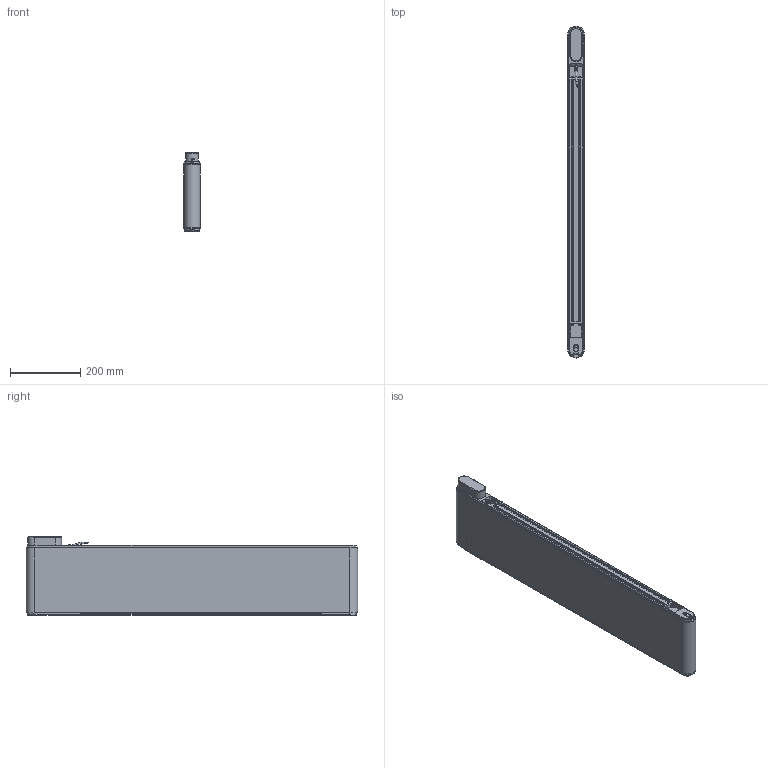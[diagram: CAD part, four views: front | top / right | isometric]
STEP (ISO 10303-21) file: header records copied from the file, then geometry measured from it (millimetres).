
FILE_DESCRIPTION(/* description */ (''),/* implementation_level */ '2;1');
FILE_NAME(/* name */ 'G:\DATEN\CAD\Förderband\Marketing\3D-Modelle (Standard)\FR-40-200-Q\FR-40-200-Q-900-K.stp',/* time_stamp */ '2019-05-09T09:51:04+02:00',/* author */ ('melanie.ochs'),/* organization */ (''),/* preprocessor_version */ 'ST-DEVELOPER v17',/* originating_system */ 'Autodesk Inventor 2019',/* authorisation */ '');
FILE_SCHEMA (('CONFIG_CONTROL_DESIGN'));
Length unit declared in the file: centimetre
Products named in the file (1): FR-40-200-Q-900-K
Bounding box: 46.6 x 946.6 x 224.5 mm (x, y, z)
Volume: 3097733.6 mm3; surface area: 1204439.3 mm2
Topology: 6 solids, 25 shells, 936 faces, 2548 edges, 1699 vertices
Faces by surface type: plane 477, cylinder 295, cone 74, bspline 61, torus 29
Full cylindrical faces by diameter (mm): 1 x6, 3 x1, 4 x12, 4.3 x4, 4.917 x3, 5 x11, 5.5 x8, 6 x4, 6.5 x1, 6.773 x1, 6.917 x3, 8 x4, 8.3 x8, 8.5 x8, 8.773 x1, 10 x2, 11 x1, 12 x6, 25 x2, 28 x2, 28.01 x2, 30 x1
Entity records: 31592 total; most frequent: CARTESIAN_POINT 6919, ORIENTED_EDGE 5052, DIRECTION 4865, EDGE_CURVE 2526, AXIS2_PLACEMENT_3D 1754, VERTEX_POINT 1698, LINE 1357, VECTOR 1357
